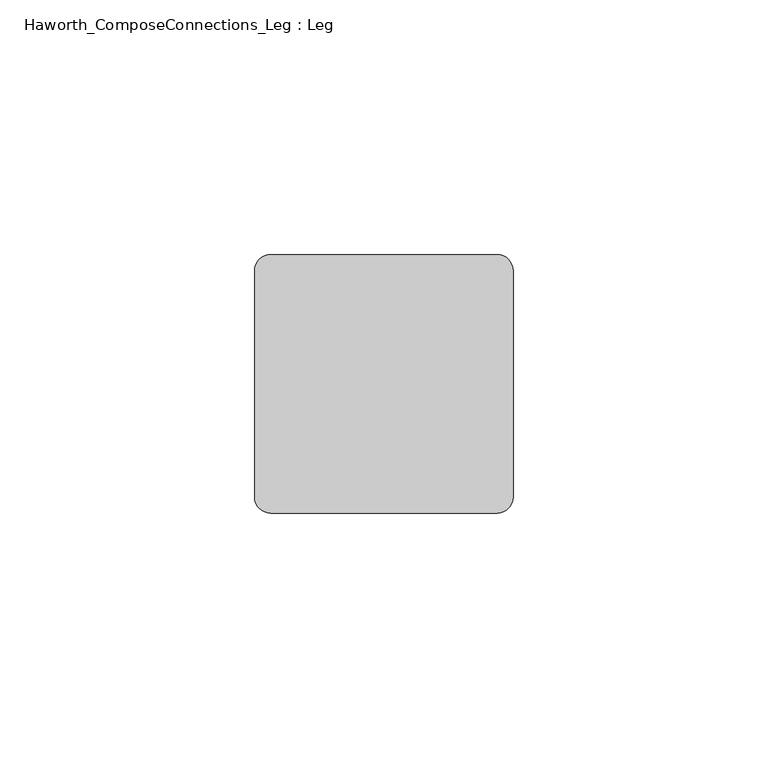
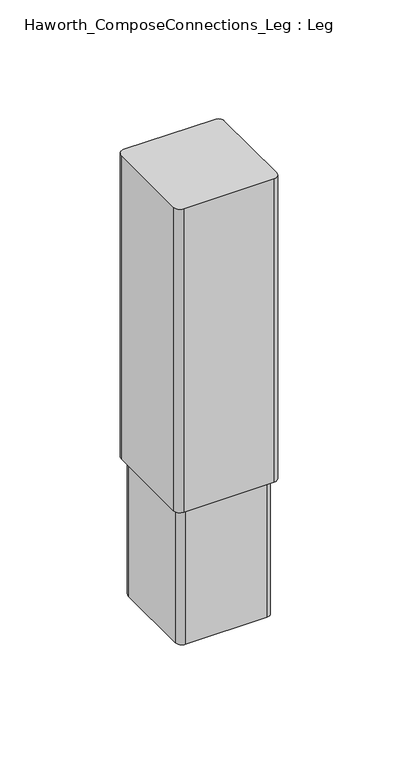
"""IFC4 building model written with IfcOpenShell, lengths in millimetres: furniture geometry, Haworth_ComposeConnections_Leg : Leg."""

import ifcopenshell
import ifcopenshell.guid

model = None  # the IFC model being written
_history = None  # IfcOwnerHistory: only IFC2X3 demands one
_inside = {}  # id of a spatial element -> (the spatial element, [elements in it])
_under = {}  # id of a project, library or spatial element -> (it, [spatial elements below it])
_declared = {}  # id of a project -> (the project, [libraries it declares])
_typed = {}  # id of a type object -> (the type object, [elements of that type])
_made_of = {}  # id of a material, layer set ... -> (it, [elements and type objects made of it])


def new_model(schema):
    """Start an empty IFC model of exactly this schema.

    Asked for "IFC4X3", IfcOpenShell would pick the latest addendum, in which some entities
    have other attributes; the version numbers below select the first issue.
    IFC2X3 requires an IfcOwnerHistory on every rooted entity: one is made here for all.
    """
    global model, _history
    if schema == "IFC4X3":
        model = ifcopenshell.file(schema_version=(4, 3, 0, 0))
    else:
        model = ifcopenshell.file(schema=schema)
    _inside.clear()
    _under.clear()
    _declared.clear()
    _typed.clear()
    _made_of.clear()
    _history = None
    if model.schema == "IFC2X3":
        org = make("IfcOrganization", Name="unknown")
        user = make(
            "IfcPersonAndOrganization",
            ThePerson=make("IfcPerson", FamilyName="unknown"),
            TheOrganization=org,
        )
        app = make(
            "IfcApplication",
            ApplicationDeveloper=org,
            Version="unknown",
            ApplicationFullName="unknown",
            ApplicationIdentifier="unknown",
        )
        _history = make(
            "IfcOwnerHistory",
            OwningUser=user,
            OwningApplication=app,
            ChangeAction="ADDED",
            CreationDate=0,
        )
    return model


def make(cls, **values):
    """One entity of the class cls with the attributes given. An attribute that is None is left unset."""
    return model.create_entity(
        cls, **{name: value for name, value in values.items() if value is not None}
    )


def rooted(cls, **values):
    """An entity with a GlobalId (a new one), such as an element, a storey or a relation."""
    return make(cls, GlobalId=ifcopenshell.guid.new(), OwnerHistory=_history, **values)


def si_unit(unit_type, name, prefix=None):
    """IfcSIUnit, for example si_unit("LENGTHUNIT", "METRE", prefix="MILLI")."""
    return make("IfcSIUnit", UnitType=unit_type, Prefix=prefix, Name=name)


def assignment(units):
    """IfcUnitAssignment: the units of a project."""
    return None if units is None else make("IfcUnitAssignment", Units=units)


def point(xyz):
    """IfcCartesianPoint."""
    return None if xyz is None else make("IfcCartesianPoint", Coordinates=xyz)


def direction(xyz):
    """IfcDirection."""
    return None if xyz is None else make("IfcDirection", DirectionRatios=xyz)


def frame(location, z_axis=None, x_axis=None):
    """IfcAxis2Placement3D, a coordinate frame: its origin and axes. An axis left out is left unset."""
    return make(
        "IfcAxis2Placement3D",
        Location=point(location),
        Axis=direction(z_axis),
        RefDirection=direction(x_axis),
    )


def frame_2d(location, x_axis=None):
    """IfcAxis2Placement2D, a coordinate frame in the plane: its origin and x axis."""
    return make(
        "IfcAxis2Placement2D", Location=point(location), RefDirection=direction(x_axis)
    )


def origin():
    """The frame at (0, 0, 0) with its axes left unset."""
    return frame((0.0, 0.0, 0.0))


def place(relative_to, where):
    """IfcLocalPlacement: puts the frame where relative to a parent placement (None: the world)."""
    return make(
        "IfcLocalPlacement", PlacementRelTo=relative_to, RelativePlacement=where
    )


def context(
    kind, dimensions, precision=None, world=None, true_north=None, identifier=None
):
    """IfcGeometricRepresentationContext, for example the 3D "Model" context."""
    return make(
        "IfcGeometricRepresentationContext",
        ContextIdentifier=identifier,
        ContextType=kind,
        CoordinateSpaceDimension=dimensions,
        Precision=precision,
        WorldCoordinateSystem=world,
        TrueNorth=true_north,
    )


def project(units=None, contexts=None):
    """IfcProject with its units and contexts."""
    return rooted(
        "IfcProject",
        Name="project",
        RepresentationContexts=contexts,
        UnitsInContext=assignment(units),
    )


def spatial(cls, under=None, at=None, **own):
    """A site, building, storey or space (cls), placed at a placement, below another one or the project."""
    s = rooted(cls, ObjectPlacement=at, **own)
    if under is not None:
        _under.setdefault(under.id(), (under, []))[1].append(s)
    return s


def polyline(points):
    """IfcPolyline through the points."""
    return make("IfcPolyline", Points=[point(p) for p in points])


def circle_curve(where, radius):
    """IfcCircle in the frame where."""
    return make("IfcCircle", Position=where, Radius=radius)


def trimmed(basis, trim1, trim2, sense, master):
    """IfcTrimmedCurve: the piece of a basis curve between two trims."""
    return make(
        "IfcTrimmedCurve",
        BasisCurve=basis,
        Trim1=trim1,
        Trim2=trim2,
        SenseAgreement=sense,
        MasterRepresentation=master,
    )


def segment(curve, same_sense, transition):
    """IfcCompositeCurveSegment."""
    return make(
        "IfcCompositeCurveSegment",
        Transition=transition,
        SameSense=same_sense,
        ParentCurve=curve,
    )


def composite_curve(segments, self_intersect=None):
    """IfcCompositeCurve: segments joined end to end."""
    return make("IfcCompositeCurve", Segments=segments, SelfIntersect=self_intersect)


def outline(outer, holes=None, kind="AREA"):
    """IfcArbitraryClosedProfileDef: a profile drawn as a closed curve; with holes, ...WithVoids."""
    if holes is None:
        return make("IfcArbitraryClosedProfileDef", ProfileType=kind, OuterCurve=outer)
    return make(
        "IfcArbitraryProfileDefWithVoids",
        ProfileType=kind,
        OuterCurve=outer,
        InnerCurves=holes,
    )


def extrude(swept, where, along, depth):
    """IfcExtrudedAreaSolid: the profile swept, set in the frame where, extruded along a direction by depth."""
    return make(
        "IfcExtrudedAreaSolid",
        SweptArea=swept,
        Position=where,
        ExtrudedDirection=direction(along),
        Depth=depth,
    )


def shape(context_of_items, identifier, shape_type, items):
    """IfcShapeRepresentation: the items that make up one representation, for example the "Body"."""
    return make(
        "IfcShapeRepresentation",
        ContextOfItems=context_of_items,
        RepresentationIdentifier=identifier,
        RepresentationType=shape_type,
        Items=items,
    )


def source(mapping_origin, context_of_items, identifier, shape_type, items):
    """IfcRepresentationMap: a shape defined once, which mapped items show again and again."""
    return make(
        "IfcRepresentationMap",
        MappingOrigin=mapping_origin,
        MappedRepresentation=shape(context_of_items, identifier, shape_type, items),
    )


def transform(
    local_origin,
    x_axis=None,
    y_axis=None,
    z_axis=None,
    scale=None,
    scale2=None,
    scale3=None,
    uniform=True,
):
    """IfcCartesianTransformationOperator3D, or its non-uniform kind. x_axis, y_axis, z_axis: its Axis1, 2, 3."""
    if uniform:
        return make(
            "IfcCartesianTransformationOperator3D",
            Axis1=direction(x_axis),
            Axis2=direction(y_axis),
            LocalOrigin=point(local_origin),
            Scale=scale,
            Axis3=direction(z_axis),
        )
    return make(
        "IfcCartesianTransformationOperator3DnonUniform",
        Axis1=direction(x_axis),
        Axis2=direction(y_axis),
        LocalOrigin=point(local_origin),
        Scale=scale,
        Axis3=direction(z_axis),
        Scale2=scale2,
        Scale3=scale3,
    )


def mapped(mapping_source, mapping_target):
    """IfcMappedItem: shows the shape of a source again, moved by a transform."""
    return make(
        "IfcMappedItem", MappingSource=mapping_source, MappingTarget=mapping_target
    )


def made_of(thing, what):
    """Note that an element or type object is made of a material, layer set ...; save() writes the relation."""
    if what is not None:
        _made_of.setdefault(what.id(), (what, []))[1].append(thing)
    return thing


def element(
    cls,
    number,
    at=None,
    inside=None,
    cuts=None,
    type_object=None,
    material=None,
    context=None,
    identifier="Body",
    shape_type=None,
    held_by="IfcProductDefinitionShape",
    body=None,
    shapes=None,
    **own,
):
    """One element of the class cls, such as IfcWall. Its Tag is "e" and its number.

    at: its placement. inside: the storey or other place that contains it. cuts: it is an
    opening in that element (IfcRelVoidsElement). A single representation is given by context,
    identifier, shape_type and body (its items); several are given by shapes. held_by: the class
    of the entity that holds the representations. save() writes the other relations.
    """
    e = rooted(cls, Tag="e%d" % number, ObjectPlacement=at, **own)
    if body is not None:
        shapes = [shape(context, identifier, shape_type, body)]
    if shapes is not None:
        e.Representation = make(held_by, Representations=shapes)
    if inside is not None:
        _inside.setdefault(inside.id(), (inside, []))[1].append(e)
    if cuts is not None:
        rooted(
            "IfcRelVoidsElement", RelatingBuildingElement=cuts, RelatedOpeningElement=e
        )
    if type_object is not None:
        _typed.setdefault(type_object.id(), (type_object, []))[1].append(e)
    return made_of(e, material)


def aggregate(whole, parts):
    """IfcRelAggregates: a whole, such as a stair, and the parts it consists of."""
    return rooted("IfcRelAggregates", RelatingObject=whole, RelatedObjects=parts)


def save(model, path):
    """Write the relations noted so far, then the file.

    IfcRelAggregates (storeys below a building ...), IfcRelContainedInSpatialStructure (elements
    in a storey), IfcRelDefinesByType, IfcRelAssociatesMaterial and IfcRelDeclares: one each for
    every whole, place, type object, material and project.
    """
    for whole, parts in _under.values():
        aggregate(whole, parts)
    for where, things in _inside.values():
        rooted(
            "IfcRelContainedInSpatialStructure",
            RelatedElements=things,
            RelatingStructure=where,
        )
    for kind, things in _typed.values():
        rooted("IfcRelDefinesByType", RelatedObjects=things, RelatingType=kind)
    for what, things in _made_of.values():
        rooted("IfcRelAssociatesMaterial", RelatedObjects=things, RelatingMaterial=what)
    for by, libraries in _declared.values():
        rooted("IfcRelDeclares", RelatingContext=by, RelatedDefinitions=libraries)
    model.write(path)


def haworth_composeconnections_leg_leg_c535c5f3(model_context):
    return source(origin(), model_context, "Body", "SweptSolid", [
        extrude(outline(composite_curve([segment(polyline([(161.9249992, -47.3534841), (206.3749962, -47.3534841)]), True, "CONTINUOUS"), segment(trimmed(circle_curve(frame_2d((206.3749962, -50.5284841)), 3.175), [point((206.3749962, -47.3534841))], [point((209.5499962, -50.5284841))], False, "CARTESIAN"), True, "CONTINUOUS"), segment(polyline([(209.5499962, -50.5284841), (209.5499962, -94.9784822)]), True, "CONTINUOUS"), segment(trimmed(circle_curve(frame_2d((206.3749962, -94.9784822)), 3.175), [point((209.5499962, -94.9784822))], [point((206.3749962, -98.1534822))], False, "CARTESIAN"), True, "CONTINUOUS"), segment(polyline([(206.3749962, -98.1534822), (161.9249992, -98.1534822)]), True, "CONTINUOUS"), segment(trimmed(circle_curve(frame_2d((161.9249992, -94.9784822)), 3.175), [point((161.9249992, -98.1534822))], [point((158.7499992, -94.9784822))], False, "CARTESIAN"), True, "CONTINUOUS"), segment(polyline([(158.7499992, -94.9784822), (158.7499992, -50.5284841)]), True, "CONTINUOUS"), segment(trimmed(circle_curve(frame_2d((161.9249992, -50.5284841)), 3.175), [point((158.7499992, -50.5284841))], [point((161.9249992, -47.3534841))], False, "CARTESIAN"), True, "CONTINUOUS")], self_intersect=False)), frame((0.0, 0.0, 77.215999), z_axis=(0.0, 0.0, 1.0), x_axis=(1.0, 0.0, 0.0)), (0.0, 0.0, 1.0), 157.734001),
        extrude(outline(composite_curve([segment(polyline([(164.2109971, -49.6394819), (204.0889984, -49.6394819)]), True, "CONTINUOUS"), segment(trimmed(circle_curve(frame_2d((204.0889984, -52.8144819)), 3.175), [point((204.0889984, -49.6394819))], [point((207.2639984, -52.8144819))], False, "CARTESIAN"), True, "CONTINUOUS"), segment(polyline([(207.2639984, -52.8144819), (207.2639984, -92.6924821)]), True, "CONTINUOUS"), segment(trimmed(circle_curve(frame_2d((204.0889984, -92.6924821)), 3.175), [point((207.2639984, -92.6924821))], [point((204.0889984, -95.8674821))], False, "CARTESIAN"), True, "CONTINUOUS"), segment(polyline([(204.0889984, -95.8674821), (164.2109971, -95.8674821)]), True, "CONTINUOUS"), segment(trimmed(circle_curve(frame_2d((164.2109971, -92.6924821)), 3.175), [point((164.2109971, -95.8674821))], [point((161.0359971, -92.6924821))], False, "CARTESIAN"), True, "CONTINUOUS"), segment(polyline([(161.0359971, -92.6924821), (161.0359971, -52.8144819)]), True, "CONTINUOUS"), segment(trimmed(circle_curve(frame_2d((164.2109971, -52.8144819)), 3.175), [point((161.0359971, -52.8144819))], [point((164.2109971, -49.6394819))], False, "CARTESIAN"), True, "CONTINUOUS")], self_intersect=False)), frame((0.0, 0.0, 6.35), z_axis=(0.0, 0.0, 1.0), x_axis=(1.0, 0.0, 0.0)), (0.0, 0.0, 1.0), 153.415999),
    ])


if __name__ == "__main__":
    model = new_model("IFC4")
    model_context = context("Model", 3, world=origin())
    ifc_project = project(units=[si_unit("LENGTHUNIT", "METRE", prefix="MILLI")], contexts=[model_context])
    site = spatial("IfcSite", under=ifc_project)
    building = spatial("IfcBuilding", under=site)
    placement = place(None, origin())
    haworth_composeconnections_leg_leg_shape = haworth_composeconnections_leg_leg_c535c5f3(model_context)
    element("IfcFurniture", 1, ObjectType="Haworth_ComposeConnections_Leg : Leg", at=placement, inside=building, context=model_context, shape_type="MappedRepresentation", body=[
        mapped(haworth_composeconnections_leg_leg_shape, transform((0.0, 0.0, 0.0), x_axis=(1.0, 0.0, 0.0), y_axis=(0.0, 1.0, 0.0), z_axis=(0.0, 0.0, 1.0))),
    ])
    save(model, "model.ifc")
